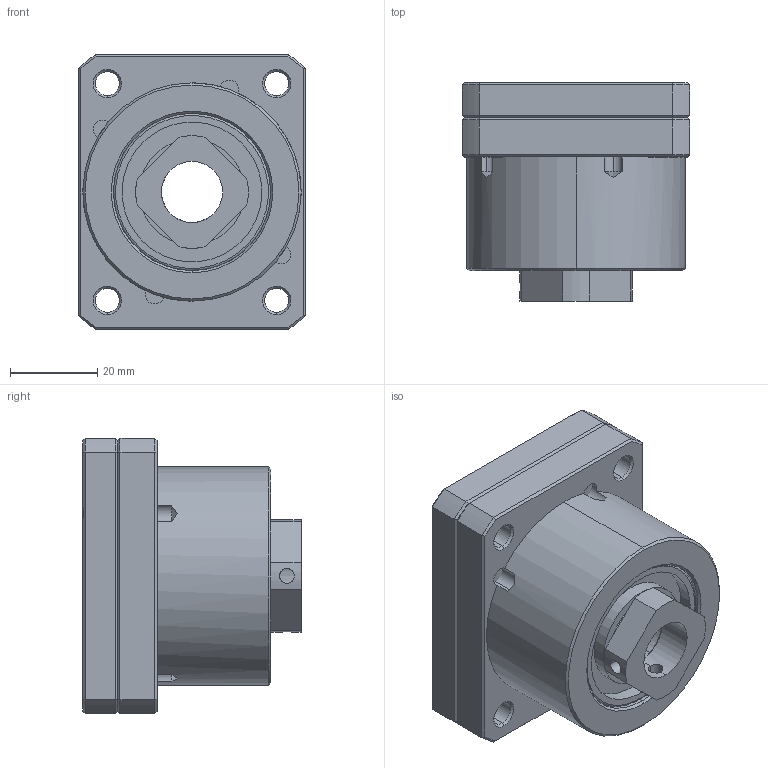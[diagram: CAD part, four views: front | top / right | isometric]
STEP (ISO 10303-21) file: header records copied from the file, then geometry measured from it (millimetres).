
FILE_DESCRIPTION (( 'STEP AP203' ), '1' );
FILE_NAME ('FKA15H ²Õ¦X¹ÏB.STEP', '2021-09-29T02:55:46', ( '' ), ( '' ), 'SwSTEP 2.0', 'SolidWorks 2018', '' );
FILE_SCHEMA (( 'CONFIG_CONTROL_DESIGN' ));
Length unit declared in the file: millimetre
Products named in the file (1): FKA15H 組合圖B
Bounding box: 52 x 50 x 63 mm (x, y, z)
Surface area: 24036.1 mm2 (no closed solid volume)
Topology: 0 solids, 17 shells, 219 faces, 578 edges, 372 vertices
Faces by surface type: cylinder 81, plane 76, cone 52, torus 10
Entity records: 7126 total; most frequent: CARTESIAN_POINT 1538, DIRECTION 1240, ORIENTED_EDGE 1027, EDGE_CURVE 578, AXIS2_PLACEMENT_3D 494, VERTEX_POINT 372, CIRCLE 274, EDGE_LOOP 256
